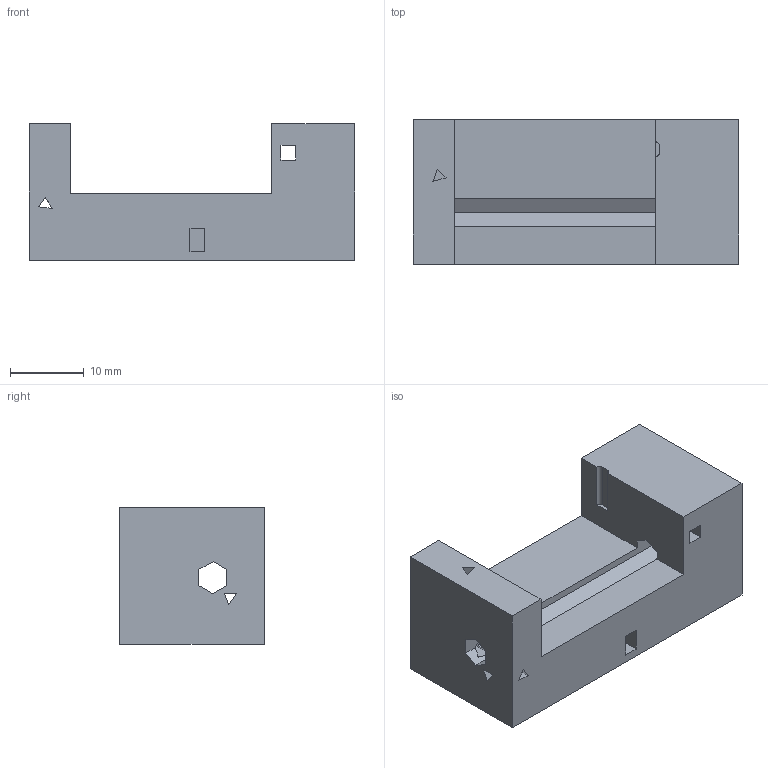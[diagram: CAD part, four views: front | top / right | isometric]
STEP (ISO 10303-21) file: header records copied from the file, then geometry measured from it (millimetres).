
FILE_DESCRIPTION(('Open CASCADE Model'),'2;1');
FILE_NAME('Open CASCADE Shape Model','2021-05-04T14:00:41',('Author'),( 'Open CASCADE'),'Open CASCADE STEP processor 7.4','Open CASCADE 7.4' ,'Unknown');
FILE_SCHEMA(('AUTOMOTIVE_DESIGN { 1 0 10303 214 1 1 1 1 }'));
Length unit declared in the file: millimetre
Products named in the file (1): Open CASCADE STEP translator 7.4 1626
Bounding box: 44.04 x 19.56 x 18.54 mm (x, y, z)
Volume: 10303.1 mm3; surface area: 4756.5 mm2
Topology: 1 solids, 1 shells, 50 faces, 147 edges, 98 vertices
Faces by surface type: plane 48, cylinder 2
Entity records: 3520 total; most frequent: CARTESIAN_POINT 650, DIRECTION 487, LINE 373, VECTOR 373, ORIENTED_EDGE 294, PCURVE 294, DEFINITIONAL_REPRESENTATION 294, EDGE_CURVE 147
